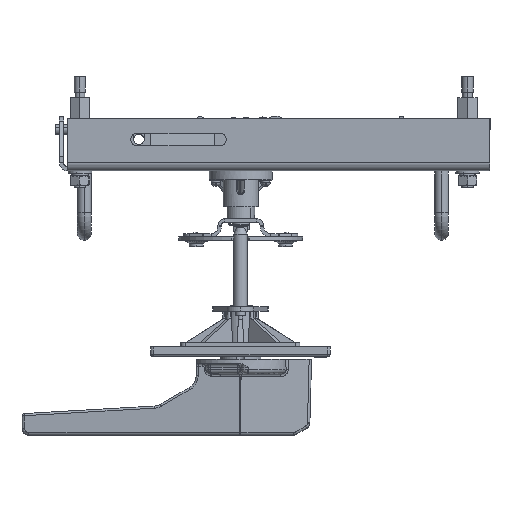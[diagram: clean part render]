
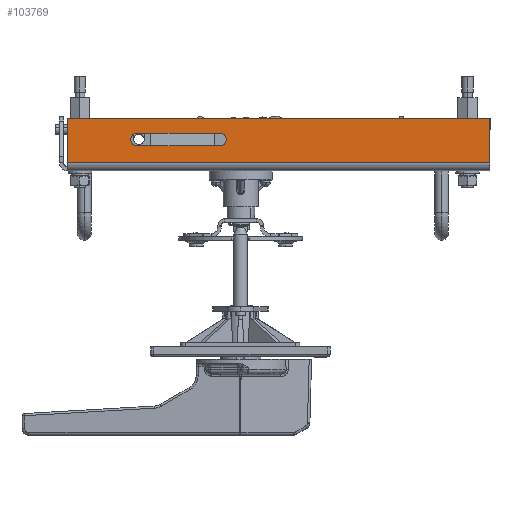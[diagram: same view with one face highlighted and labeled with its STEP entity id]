
A CAD part, left-side view. The second image highlights one B-rep face of the part: STEP entity #103769.
In plain terms, the highlighted planar face has unit normal (-1, 0, 0).
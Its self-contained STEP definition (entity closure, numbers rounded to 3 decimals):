
#2311 = CARTESIAN_POINT ( 'NONE',  ( -106.735, -105.899, -204.375 ) ) ;
#2312 = CARTESIAN_POINT ( 'NONE',  ( -106.735, 149.101, -224.075 ) ) ;
#2316 = CARTESIAN_POINT ( 'NONE',  ( -106.735, 199.101, -236.375 ) ) ;
#2320 = CARTESIAN_POINT ( 'NONE',  ( -106.735, -105.899, -236.375 ) ) ;
#2322 = CARTESIAN_POINT ( 'NONE',  ( -106.735, 149.101, -215.075 ) ) ;
#2323 = CARTESIAN_POINT ( 'NONE',  ( -106.735, 199.101, -204.375 ) ) ;
#2327 = CARTESIAN_POINT ( 'NONE',  ( -106.735, 89.101, -215.075 ) ) ;
#2328 = CARTESIAN_POINT ( 'NONE',  ( -106.735, 89.101, -224.075 ) ) ;
#16223 = FACE_BOUND ( 'NONE', #63518, .T. ) ;
#16227 = FACE_OUTER_BOUND ( 'NONE', #63502, .T. ) ;
#16769 = LINE ( 'NONE', #17424, #16771 ) ;
#16771 = VECTOR ( 'NONE', #17411, 1000. ) ;
#16784 = LINE ( 'NONE', #17448, #16789 ) ;
#16789 = VECTOR ( 'NONE', #17456, 1000. ) ;
#16837 = LINE ( 'NONE', #17517, #16839 ) ;
#16838 = LINE ( 'NONE', #17539, #16847 ) ;
#16839 = VECTOR ( 'NONE', #17518, 1000. ) ;
#16847 = VECTOR ( 'NONE', #17532, 1000. ) ;
#16997 = LINE ( 'NONE', #17794, #17004 ) ;
#17004 = VECTOR ( 'NONE', #17790, 1000. ) ;
#17411 = DIRECTION ( 'NONE',  ( 0., -1., 0. ) ) ;
#17424 = CARTESIAN_POINT ( 'NONE',  ( -106.735, -105.899, -236.375 ) ) ;
#17448 = CARTESIAN_POINT ( 'NONE',  ( -106.735, -105.899, -204.375 ) ) ;
#17456 = DIRECTION ( 'NONE',  ( 0., -1., 0. ) ) ;
#17517 = CARTESIAN_POINT ( 'NONE',  ( -106.735, 149.101, -215.075 ) ) ;
#17518 = DIRECTION ( 'NONE',  ( 0., -1., 0. ) ) ;
#17532 = DIRECTION ( 'NONE',  ( 0., 1., 0. ) ) ;
#17539 = CARTESIAN_POINT ( 'NONE',  ( -106.735, 149.101, -224.075 ) ) ;
#17790 = DIRECTION ( 'NONE',  ( 0., 0., -1. ) ) ;
#17794 = CARTESIAN_POINT ( 'NONE',  ( -106.735, -105.899, -239.375 ) ) ;
#22686 = VERTEX_POINT ( 'NONE', #2311 ) ;
#22688 = VERTEX_POINT ( 'NONE', #2312 ) ;
#22695 = VERTEX_POINT ( 'NONE', #2316 ) ;
#22703 = VERTEX_POINT ( 'NONE', #2320 ) ;
#22707 = VERTEX_POINT ( 'NONE', #2322 ) ;
#22709 = VERTEX_POINT ( 'NONE', #2323 ) ;
#22716 = VERTEX_POINT ( 'NONE', #2327 ) ;
#22718 = VERTEX_POINT ( 'NONE', #2328 ) ;
#22940 = AXIS2_PLACEMENT_3D ( 'NONE', #44719, #44721, #44724 ) ;
#23583 = AXIS2_PLACEMENT_3D ( 'NONE', #72803, #72804, #72806 ) ;
#23738 = AXIS2_PLACEMENT_3D ( 'NONE', #37414, #37415, #37416 ) ;
#37414 = CARTESIAN_POINT ( 'NONE',  ( -106.735, 149.101, -219.575 ) ) ;
#37415 = DIRECTION ( 'NONE',  ( 1., 0., 0. ) ) ;
#37416 = DIRECTION ( 'NONE',  ( 0., 0., -1. ) ) ;
#38251 = CARTESIAN_POINT ( 'NONE',  ( -106.735, 199.101, -204.375 ) ) ;
#38254 = DIRECTION ( 'NONE',  ( 0., 0., 1. ) ) ;
#44373 = CIRCLE ( 'NONE', #23583, 4.5 ) ;
#44699 = PLANE ( 'NONE',  #22940 ) ;
#44719 = CARTESIAN_POINT ( 'NONE',  ( -106.735, -105.899, -239.375 ) ) ;
#44721 = DIRECTION ( 'NONE',  ( -1., 0., 0. ) ) ;
#44724 = DIRECTION ( 'NONE',  ( 0., 0., 1. ) ) ;
#45220 = CIRCLE ( 'NONE', #23738, 4.5 ) ;
#45631 = LINE ( 'NONE', #38251, #45681 ) ;
#45681 = VECTOR ( 'NONE', #38254, 1000. ) ;
#63502 = EDGE_LOOP ( 'NONE', ( #86121, #84962, #85171, #85268 ) ) ;
#63518 = EDGE_LOOP ( 'NONE', ( #84981, #84969, #85174, #84956 ) ) ;
#72803 = CARTESIAN_POINT ( 'NONE',  ( -106.735, 89.101, -219.575 ) ) ;
#72804 = DIRECTION ( 'NONE',  ( 1., 0., 0. ) ) ;
#72806 = DIRECTION ( 'NONE',  ( 0., 0., -1. ) ) ;
#84956 = ORIENTED_EDGE ( 'NONE', *, *, #107188, .T. ) ;
#84962 = ORIENTED_EDGE ( 'NONE', *, *, #107141, .T. ) ;
#84969 = ORIENTED_EDGE ( 'NONE', *, *, #107183, .T. ) ;
#84981 = ORIENTED_EDGE ( 'NONE', *, *, #107705, .T. ) ;
#85171 = ORIENTED_EDGE ( 'NONE', *, *, #107291, .F. ) ;
#85174 = ORIENTED_EDGE ( 'NONE', *, *, #107498, .T. ) ;
#85268 = ORIENTED_EDGE ( 'NONE', *, *, #107152, .F. ) ;
#86121 = ORIENTED_EDGE ( 'NONE', *, *, #107839, .F. ) ;
#103769 = ADVANCED_FACE ( 'NONE', ( #16223, #16227 ), #44699, .T. ) ;
#107141 = EDGE_CURVE ( 'NONE', #22695, #22703, #16769, .T. ) ;
#107152 = EDGE_CURVE ( 'NONE', #22709, #22686, #16784, .T. ) ;
#107183 = EDGE_CURVE ( 'NONE', #22707, #22716, #16837, .T. ) ;
#107188 = EDGE_CURVE ( 'NONE', #22718, #22688, #16838, .T. ) ;
#107291 = EDGE_CURVE ( 'NONE', #22686, #22703, #16997, .T. ) ;
#107498 = EDGE_CURVE ( 'NONE', #22716, #22718, #44373, .T. ) ;
#107705 = EDGE_CURVE ( 'NONE', #22688, #22707, #45220, .T. ) ;
#107839 = EDGE_CURVE ( 'NONE', #22695, #22709, #45631, .T. ) ;
